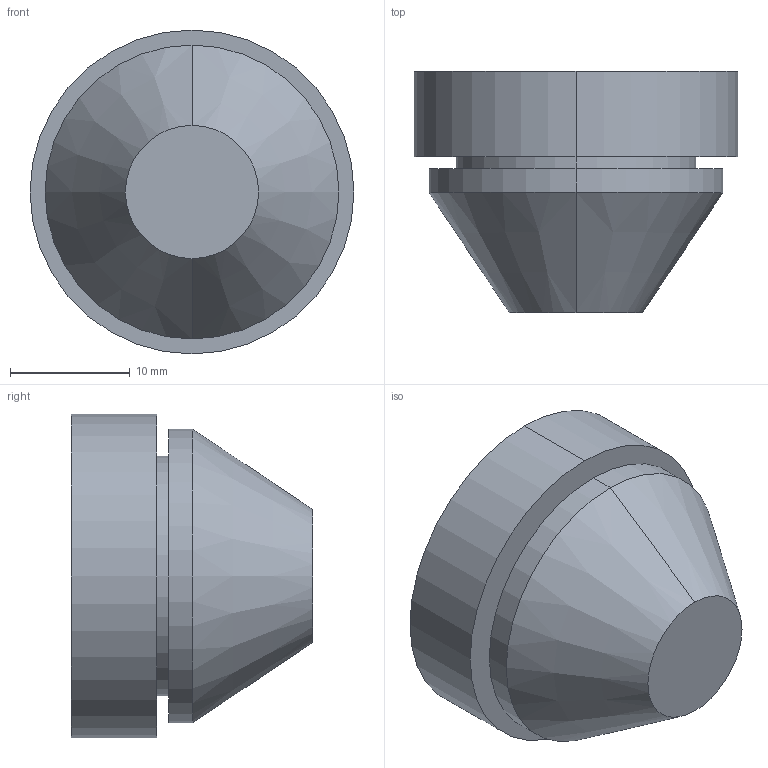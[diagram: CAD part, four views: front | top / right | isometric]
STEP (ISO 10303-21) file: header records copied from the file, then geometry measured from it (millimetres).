
FILE_DESCRIPTION (( 'STEP AP203' ), '1' );
FILE_NAME ('100578.STEP', '2012-10-25T05:16:53', ( 'Joni' ), ( 'Hewlett-Packard Company' ), 'SwSTEP 2.0', 'SolidWorks 2012', '' );
FILE_SCHEMA (( 'CONFIG_CONTROL_DESIGN' ));
Length unit declared in the file: millimetre
Products named in the file (1): 100578
Bounding box: 27 x 20.1 x 27 mm (x, y, z)
Volume: 7928.3 mm3; surface area: 2577.1 mm2
Topology: 1 solids, 1 shells, 12 faces, 22 edges, 14 vertices
Faces by surface type: cylinder 6, plane 4, cone 2
Entity records: 381 total; most frequent: DIRECTION 62, CARTESIAN_POINT 49, ORIENTED_EDGE 44, AXIS2_PLACEMENT_3D 27, EDGE_CURVE 22, CIRCLE 14, VERTEX_POINT 14, EDGE_LOOP 14
